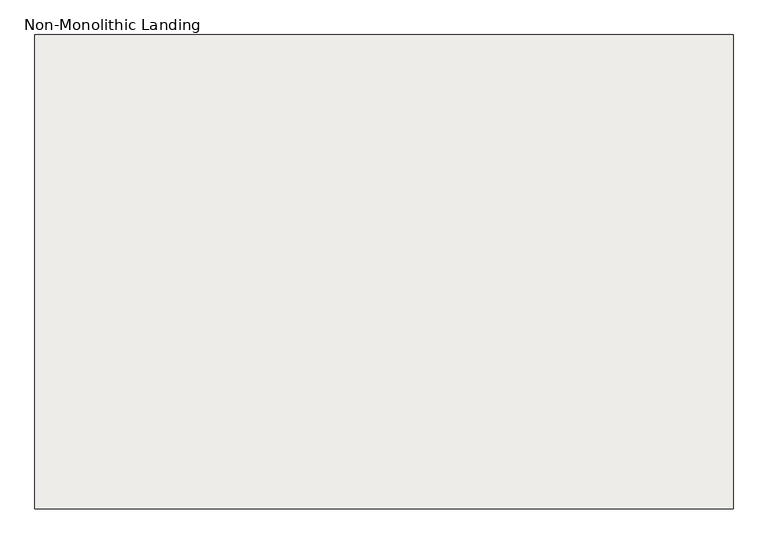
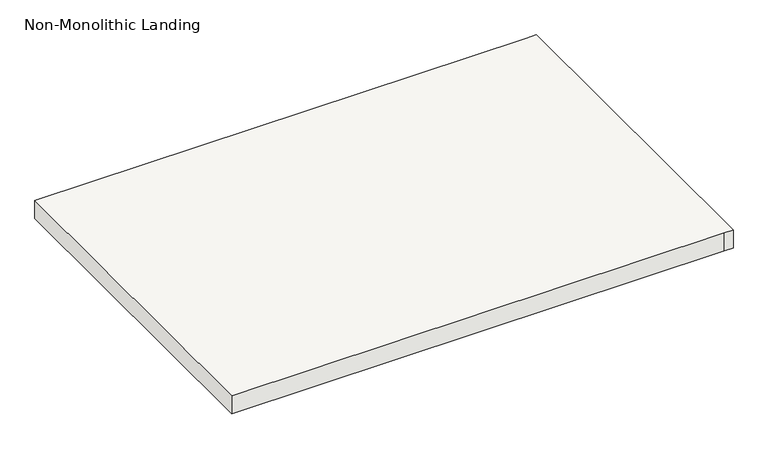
"""IFC4 building model written with IfcOpenShell, lengths in millimetres: slab geometry, Non-Monolithic Landing."""

from ifc_helpers import new_model, si_unit, frame, origin, place, context, project, spatial, polyline, outline, extrude, source, transform, mapped, element, save


def non_monolithic_landing_522a30ce(model_context):
    return source(origin(), model_context, "Body", "SweptSolid", [
        extrude(outline(polyline([(-32569.67137, 32558.6177722), (-31248.87137, 32558.6177722), (-31223.47137, 32558.6177722), (-31223.47137, 31644.2177722), (-31248.87137, 31644.2177722), (-32569.67137, 31644.2177722), (-32569.67137, 32558.6177722)])), frame((0.0, 0.0, 2126.3428571), z_axis=(0.0, 0.0, 1.0), x_axis=(1.0, 0.0, 0.0)), (0.0, 0.0, 1.0), 50.8),
    ])


if __name__ == "__main__":
    model = new_model("IFC4")
    model_context = context("Model", 3, world=origin())
    ifc_project = project(units=[si_unit("LENGTHUNIT", "METRE", prefix="MILLI")], contexts=[model_context])
    site = spatial("IfcSite", under=ifc_project)
    building = spatial("IfcBuilding", under=site)
    placement = place(None, origin())
    non_monolithic_landing_shape = non_monolithic_landing_522a30ce(model_context)
    element("IfcSlab", 1, ObjectType="Non-Monolithic Landing", at=placement, inside=building, context=model_context, shape_type="MappedRepresentation", body=[
        mapped(non_monolithic_landing_shape, transform((0.0, 0.0, 0.0), x_axis=(1.0, 0.0, 0.0), y_axis=(0.0, 1.0, 0.0), z_axis=(0.0, 0.0, 1.0))),
    ])
    save(model, "model.ifc")
